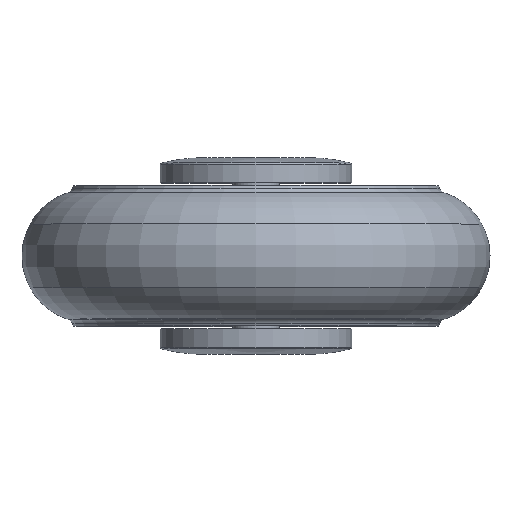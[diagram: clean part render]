
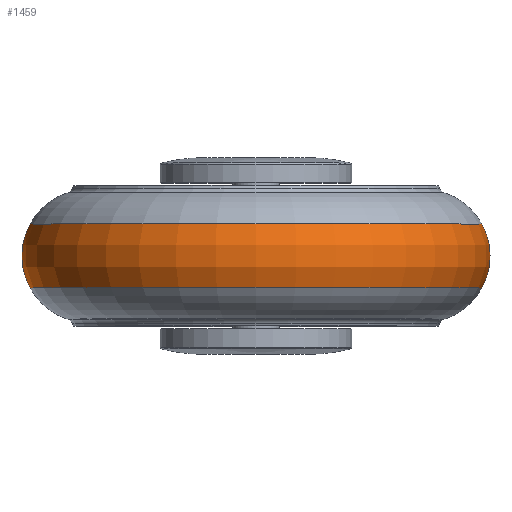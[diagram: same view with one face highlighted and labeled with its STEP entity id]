
A CAD part, top view. The second image highlights one B-rep face of the part: STEP entity #1459.
In plain terms, the highlighted toroidal (fillet/blend) face has major radius 35.633 mm and minor radius 14.367 mm.
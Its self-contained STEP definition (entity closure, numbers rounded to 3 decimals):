
#1222=CARTESIAN_POINT('',(0.,-6.803,0.));
#1223=DIRECTION('',(0.,1.,0.));
#1224=DIRECTION('',(-1.,0.,0.));
#1225=AXIS2_PLACEMENT_3D('',#1222,#1223,#1224);
#1227=CARTESIAN_POINT('',(0.,6.803,0.));
#1228=DIRECTION('',(0.,1.,0.));
#1229=DIRECTION('',(-1.,0.,0.));
#1230=AXIS2_PLACEMENT_3D('',#1227,#1228,#1229);
#1232=CARTESIAN_POINT('',(35.633,0.,0.));
#1233=DIRECTION('',(0.,0.,1.));
#1234=DIRECTION('',(0.881,-0.473,0.));
#1235=AXIS2_PLACEMENT_3D('',#1232,#1233,#1234);
#1242=CARTESIAN_POINT('',(-35.633,0.,0.));
#1243=DIRECTION('',(0.,0.,-1.));
#1244=DIRECTION('',(-0.881,-0.473,0.));
#1245=AXIS2_PLACEMENT_3D('',#1242,#1243,#1244);
#1404=CARTESIAN_POINT('',(48.287,-6.803,0.));
#1405=CARTESIAN_POINT('',(48.287,6.803,0.));
#1406=VERTEX_POINT('',#1404);
#1407=VERTEX_POINT('',#1405);
#1408=CARTESIAN_POINT('',(-48.287,-6.803,
0.));
#1409=CARTESIAN_POINT('',(-48.287,6.803,
0.));
#1410=VERTEX_POINT('',#1408);
#1411=VERTEX_POINT('',#1409);
#1444=CARTESIAN_POINT('',(0.,0.,0.));
#1445=DIRECTION('',(0.,-1.,0.));
#1446=DIRECTION('',(-1.,0.,0.));
#1447=AXIS2_PLACEMENT_3D('',#1444,#1445,#1446);
#1448=TOROIDAL_SURFACE('',#1447,35.633,14.367);
#1450=ORIENTED_EDGE('',*,*,#1449,.F.);
#1452=ORIENTED_EDGE('',*,*,#1451,.F.);
#1454=ORIENTED_EDGE('',*,*,#1453,.T.);
#1456=ORIENTED_EDGE('',*,*,#1455,.T.);
#1457=EDGE_LOOP('',(#1450,#1452,#1454,#1456));
#1458=FACE_OUTER_BOUND('',#1457,.F.);
#1226=CIRCLE('',#1225,48.287);
#1231=CIRCLE('',#1230,48.287);
#1236=CIRCLE('',#1235,14.367);
#1246=CIRCLE('',#1245,14.367);
#1449=EDGE_CURVE('',#1406,#1407,#1236,.T.);
#1451=EDGE_CURVE('',#1410,#1406,#1226,.T.);
#1453=EDGE_CURVE('',#1410,#1411,#1246,.T.);
#1455=EDGE_CURVE('',#1411,#1407,#1231,.T.);
#1459=ADVANCED_FACE('',(#1458),#1448,.T.);
